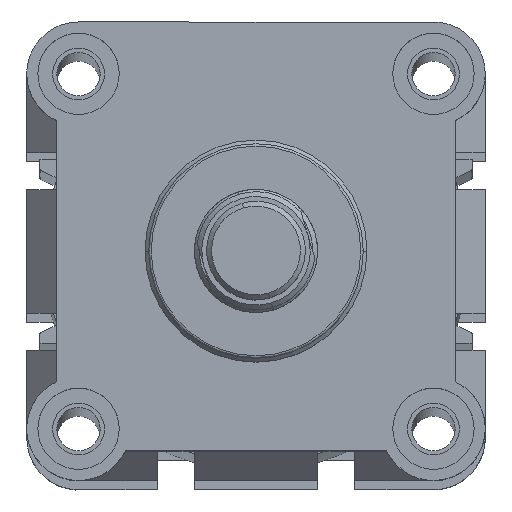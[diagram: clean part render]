
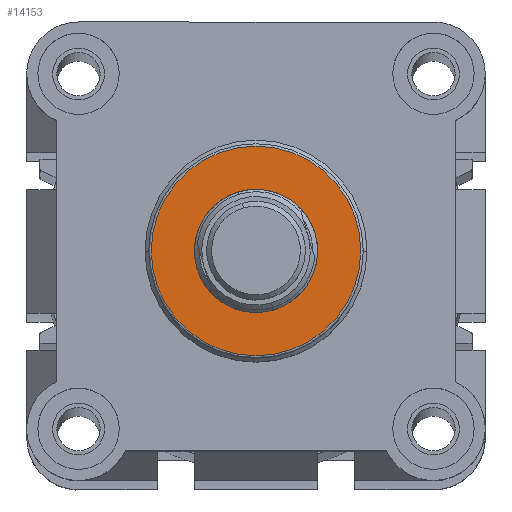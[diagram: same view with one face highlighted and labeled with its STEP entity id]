
A CAD part, top view. The second image highlights one B-rep face of the part: STEP entity #14153.
In plain terms, the highlighted planar face has unit normal (0, 0, 1) as drawn and (0, 0, -1) by its records, which use the part's own axes.
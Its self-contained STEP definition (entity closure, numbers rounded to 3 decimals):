
#498 = DIRECTION ( 'NONE',  ( 0., 0., -1. ) ) ;
#1017 = VERTEX_POINT ( 'NONE', #3925 ) ;
#1370 = EDGE_CURVE ( 'NONE', #3281, #1017, #14972, .T. ) ;
#1775 = CARTESIAN_POINT ( 'NONE',  ( 46.5, 46.5, -34.7 ) ) ;
#2654 = CARTESIAN_POINT ( 'NONE',  ( 46.5, 46.5, -34.7 ) ) ;
#2656 = DIRECTION ( 'NONE',  ( 0., 0., -1. ) ) ;
#2660 = CIRCLE ( 'NONE', #9114, 21.25 ) ;
#3281 = VERTEX_POINT ( 'NONE', #4503 ) ;
#3871 = EDGE_CURVE ( 'NONE', #11619, #7534, #2660, .T. ) ;
#3925 = CARTESIAN_POINT ( 'NONE',  ( 59., 46.5, -34.7 ) ) ;
#4300 = AXIS2_PLACEMENT_3D ( 'NONE', #11119, #498, #8330 ) ;
#4421 = CIRCLE ( 'NONE', #12696, 21.25 ) ;
#4503 = CARTESIAN_POINT ( 'NONE',  ( 34., 46.5, -34.7 ) ) ;
#4835 = AXIS2_PLACEMENT_3D ( 'NONE', #6747, #8318, #11296 ) ;
#5706 = EDGE_LOOP ( 'NONE', ( #18879, #8135 ) ) ;
#5892 = ORIENTED_EDGE ( 'NONE', *, *, #11238, .F. ) ;
#6500 = CARTESIAN_POINT ( 'NONE',  ( 67.75, 46.5, -34.7 ) ) ;
#6747 = CARTESIAN_POINT ( 'NONE',  ( 46.5, 46.5, -34.7 ) ) ;
#7259 = CARTESIAN_POINT ( 'NONE',  ( 46.5, 46.5, -34.7 ) ) ;
#7495 = AXIS2_PLACEMENT_3D ( 'NONE', #1775, #10803, #7942 ) ;
#7534 = VERTEX_POINT ( 'NONE', #13051 ) ;
#7942 = DIRECTION ( 'NONE',  ( -1., 0., 0. ) ) ;
#8135 = ORIENTED_EDGE ( 'NONE', *, *, #3871, .T. ) ;
#8318 = DIRECTION ( 'NONE',  ( 0., 0., -1. ) ) ;
#8330 = DIRECTION ( 'NONE',  ( -1., 0., 0. ) ) ;
#8642 = DIRECTION ( 'NONE',  ( 0., 0., -1. ) ) ;
#8872 = EDGE_CURVE ( 'NONE', #7534, #11619, #4421, .T. ) ;
#9114 = AXIS2_PLACEMENT_3D ( 'NONE', #2654, #8642, #14766 ) ;
#10134 = FACE_OUTER_BOUND ( 'NONE', #5706, .T. ) ;
#10402 = ORIENTED_EDGE ( 'NONE', *, *, #1370, .F. ) ;
#10803 = DIRECTION ( 'NONE',  ( 0., 0., -1. ) ) ;
#11119 = CARTESIAN_POINT ( 'NONE',  ( 46.5, 46.5, -34.7 ) ) ;
#11238 = EDGE_CURVE ( 'NONE', #1017, #3281, #14349, .T. ) ;
#11291 = FACE_BOUND ( 'NONE', #19195, .T. ) ;
#11296 = DIRECTION ( 'NONE',  ( -1., 0., 0. ) ) ;
#11619 = VERTEX_POINT ( 'NONE', #6500 ) ;
#12696 = AXIS2_PLACEMENT_3D ( 'NONE', #7259, #2656, #19295 ) ;
#12705 = PLANE ( 'NONE',  #4300 ) ;
#13051 = CARTESIAN_POINT ( 'NONE',  ( 25.25, 46.5, -34.7 ) ) ;
#14153 = ADVANCED_FACE ( 'NONE', ( #11291, #10134 ), #12705, .T. ) ;
#14349 = CIRCLE ( 'NONE', #4835, 12.5 ) ;
#14766 = DIRECTION ( 'NONE',  ( -1., 0., 0. ) ) ;
#14972 = CIRCLE ( 'NONE', #7495, 12.5 ) ;
#18879 = ORIENTED_EDGE ( 'NONE', *, *, #8872, .T. ) ;
#19195 = EDGE_LOOP ( 'NONE', ( #10402, #5892 ) ) ;
#19295 = DIRECTION ( 'NONE',  ( -1., 0., 0. ) ) ;
